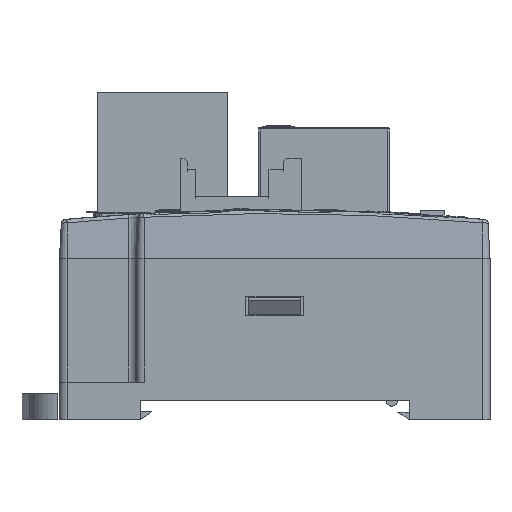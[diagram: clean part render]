
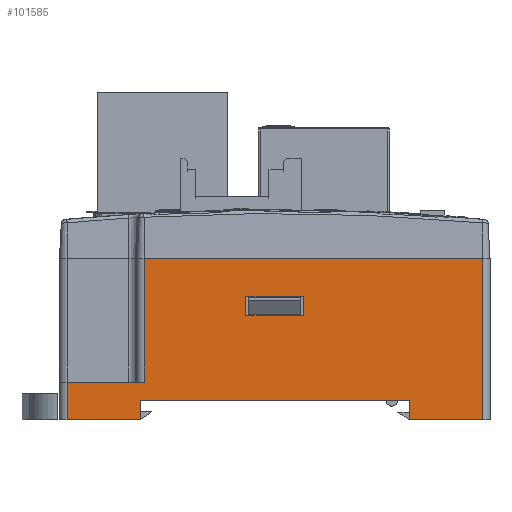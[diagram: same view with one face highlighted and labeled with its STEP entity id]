
A CAD part, front view. The second image highlights one B-rep face of the part: STEP entity #101585.
In plain terms, the highlighted planar face has unit normal (0, -1, 0).
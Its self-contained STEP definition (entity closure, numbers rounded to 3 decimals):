
#5239=DIRECTION('',(0.,0.,-1.));
#5240=VECTOR('',#5239,21.);
#5241=CARTESIAN_POINT('',(27.,-60.,0.));
#5242=LINE('',#5241,#5240);
#5299=DIRECTION('',(0.,0.,-1.));
#5300=VECTOR('',#5299,2.5);
#5301=CARTESIAN_POINT('',(17.5,-60.,-18.5));
#5302=LINE('',#5301,#5300);
#5892=DIRECTION('',(0.,0.,1.));
#5893=VECTOR('',#5892,16.1);
#5894=CARTESIAN_POINT('',(-17.,-60.,-16.1));
#5895=LINE('',#5894,#5893);
#5900=DIRECTION('',(1.,0.,0.));
#5901=VECTOR('',#5900,9.5);
#5902=CARTESIAN_POINT('',(17.5,-60.,-21.));
#5903=LINE('',#5902,#5901);
#5904=DIRECTION('',(1.,0.,0.));
#5905=VECTOR('',#5904,9.5);
#5906=CARTESIAN_POINT('',(-27.,-60.,-21.));
#5907=LINE('',#5906,#5905);
#5912=DIRECTION('',(0.,0.,1.));
#5913=VECTOR('',#5912,2.5);
#5914=CARTESIAN_POINT('',(-3.75,-60.,-7.5));
#5915=LINE('',#5914,#5913);
#5984=DIRECTION('',(1.,0.,0.));
#5985=VECTOR('',#5984,7.5);
#5986=CARTESIAN_POINT('',(-3.75,-60.,-5.));
#5987=LINE('',#5986,#5985);
#6175=DIRECTION('',(0.,0.,-1.));
#6176=VECTOR('',#6175,2.5);
#6177=CARTESIAN_POINT('',(3.75,-60.,-5.));
#6178=LINE('',#6177,#6176);
#6183=DIRECTION('',(-1.,0.,0.));
#6184=VECTOR('',#6183,7.5);
#6185=CARTESIAN_POINT('',(3.75,-60.,-7.5));
#6186=LINE('',#6185,#6184);
#6191=DIRECTION('',(-1.,0.,0.));
#6192=VECTOR('',#6191,35.);
#6193=CARTESIAN_POINT('',(17.5,-60.,-18.5));
#6194=LINE('',#6193,#6192);
#6199=DIRECTION('',(0.,0.,1.));
#6200=VECTOR('',#6199,2.5);
#6201=CARTESIAN_POINT('',(-17.5,-60.,-21.));
#6202=LINE('',#6201,#6200);
#34703=DIRECTION('',(1.,0.,0.));
#34704=VECTOR('',#34703,10.);
#34705=CARTESIAN_POINT('',(-27.,-60.,-16.1));
#34706=LINE('',#34705,#34704);
#34740=DIRECTION('',(0.,0.,1.));
#34741=VECTOR('',#34740,4.9);
#34742=CARTESIAN_POINT('',(-27.,-60.,-21.));
#34743=LINE('',#34742,#34741);
#34833=DIRECTION('',(1.,0.,0.));
#34834=VECTOR('',#34833,44.);
#34835=CARTESIAN_POINT('',(-17.,-60.,0.));
#34836=LINE('',#34835,#34834);
#84912=CARTESIAN_POINT('',(-17.5,-60.,-21.));
#84913=VERTEX_POINT('',#84912);
#84914=CARTESIAN_POINT('',(-27.,-60.,-21.));
#84915=VERTEX_POINT('',#84914);
#84942=CARTESIAN_POINT('',(27.,-60.,-21.));
#84943=VERTEX_POINT('',#84942);
#84944=CARTESIAN_POINT('',(17.5,-60.,-21.));
#84945=VERTEX_POINT('',#84944);
#85014=CARTESIAN_POINT('',(17.5,-60.,-18.5));
#85015=CARTESIAN_POINT('',(-17.5,-60.,-18.5));
#85016=VERTEX_POINT('',#85014);
#85017=VERTEX_POINT('',#85015);
#85018=CARTESIAN_POINT('',(-27.,-60.,-16.1));
#85019=VERTEX_POINT('',#85018);
#85020=CARTESIAN_POINT('',(-17.,-60.,-16.1));
#85021=VERTEX_POINT('',#85020);
#85022=CARTESIAN_POINT('',(-3.75,-60.,-7.5));
#85023=CARTESIAN_POINT('',(-3.75,-60.,-5.));
#85024=VERTEX_POINT('',#85022);
#85025=VERTEX_POINT('',#85023);
#85026=CARTESIAN_POINT('',(3.75,-60.,-7.5));
#85027=VERTEX_POINT('',#85026);
#85028=CARTESIAN_POINT('',(3.75,-60.,-5.));
#85029=VERTEX_POINT('',#85028);
#94780=CARTESIAN_POINT('',(-17.,-60.,0.));
#94781=CARTESIAN_POINT('',(27.,-60.,0.));
#94782=VERTEX_POINT('',#94780);
#94783=VERTEX_POINT('',#94781);
#101552=CARTESIAN_POINT('',(0.,-60.,-10.5));
#101553=DIRECTION('',(0.,1.,0.));
#101554=DIRECTION('',(1.,0.,0.));
#101555=AXIS2_PLACEMENT_3D('',#101552,#101553,#101554);
#101556=PLANE('',#101555);
#101557=ORIENTED_EDGE('',*,*,#100379,.T.);
#101558=ORIENTED_EDGE('',*,*,#100400,.F.);
#101559=ORIENTED_EDGE('',*,*,#100498,.F.);
#101561=ORIENTED_EDGE('',*,*,#101560,.T.);
#101563=ORIENTED_EDGE('',*,*,#101562,.F.);
#101565=ORIENTED_EDGE('',*,*,#101564,.F.);
#101567=ORIENTED_EDGE('',*,*,#101566,.T.);
#101569=ORIENTED_EDGE('',*,*,#101568,.T.);
#101570=ORIENTED_EDGE('',*,*,#101536,.T.);
#101572=ORIENTED_EDGE('',*,*,#101571,.T.);
#101573=EDGE_LOOP('',(#101557,#101558,#101559,#101561,#101563,#101565,#101567,
#101569,#101570,#101572));
#101574=FACE_OUTER_BOUND('',#101573,.F.);
#101576=ORIENTED_EDGE('',*,*,#101575,.F.);
#101578=ORIENTED_EDGE('',*,*,#101577,.F.);
#101580=ORIENTED_EDGE('',*,*,#101579,.F.);
#101582=ORIENTED_EDGE('',*,*,#101581,.F.);
#101583=EDGE_LOOP('',(#101576,#101578,#101580,#101582));
#101584=FACE_BOUND('',#101583,.F.);
#101585=ADVANCED_FACE('',(#101574,#101584),#101556,.F.);
#100379=EDGE_CURVE('',#94783,#84943,#5242,.T.);
#100400=EDGE_CURVE('',#84945,#84943,#5903,.T.);
#100498=EDGE_CURVE('',#85016,#84945,#5302,.T.);
#101536=EDGE_CURVE('',#85021,#94782,#5895,.T.);
#101560=EDGE_CURVE('',#85016,#85017,#6194,.T.);
#101562=EDGE_CURVE('',#84913,#85017,#6202,.T.);
#101564=EDGE_CURVE('',#84915,#84913,#5907,.T.);
#101566=EDGE_CURVE('',#84915,#85019,#34743,.T.);
#101568=EDGE_CURVE('',#85019,#85021,#34706,.T.);
#101571=EDGE_CURVE('',#94782,#94783,#34836,.T.);
#101575=EDGE_CURVE('',#85024,#85025,#5915,.T.);
#101577=EDGE_CURVE('',#85027,#85024,#6186,.T.);
#101579=EDGE_CURVE('',#85029,#85027,#6178,.T.);
#101581=EDGE_CURVE('',#85025,#85029,#5987,.T.);
